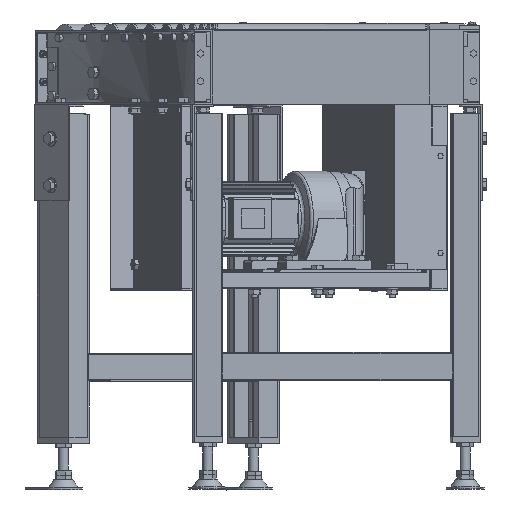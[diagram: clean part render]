
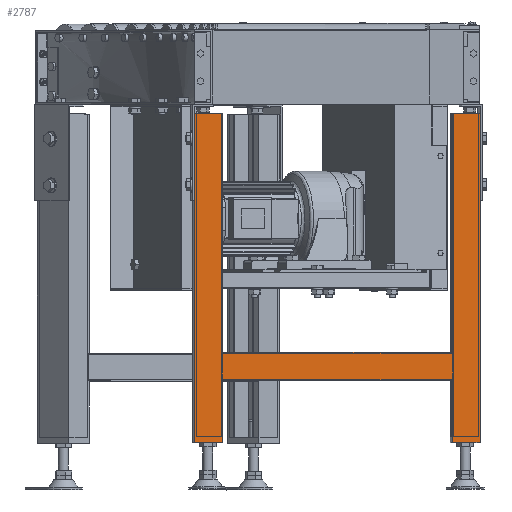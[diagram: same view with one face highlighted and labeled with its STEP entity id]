
A CAD part, top view. The second image highlights one B-rep face of the part: STEP entity #2787.
In plain terms, the highlighted planar face has unit normal (0.045, 0, 0.999).
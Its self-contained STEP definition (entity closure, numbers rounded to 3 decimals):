
#2787=ADVANCED_FACE('',(#23539),#23538,.T.);
#23538=PLANE('',#42070);
#23539=FACE_OUTER_BOUND('',#42071,.T.);
#42067=CARTESIAN_POINT('',(860.816,-685.,-1.398));
#42068=DIRECTION('',(0.045,0.,0.999));
#42069=DIRECTION('',(0.999,0.,-0.045));
#42070=AXIS2_PLACEMENT_3D('',#42067,#42068,#42069);
#42071=EDGE_LOOP('',(#55925,#55926,#55927,#55928,#55929,#55930,#55931,#55932,#55933,#55934,#55935,#55936,#55937,#55938));
#55925=ORIENTED_EDGE('',*,*,#64545,.F.);
#55926=ORIENTED_EDGE('',*,*,#64521,.T.);
#55927=ORIENTED_EDGE('',*,*,#64546,.T.);
#55928=ORIENTED_EDGE('',*,*,#64547,.F.);
#55929=ORIENTED_EDGE('',*,*,#64548,.T.);
#55930=ORIENTED_EDGE('',*,*,#64549,.T.);
#55931=ORIENTED_EDGE('',*,*,#64550,.T.);
#55932=ORIENTED_EDGE('',*,*,#64551,.F.);
#55933=ORIENTED_EDGE('',*,*,#64489,.F.);
#55934=ORIENTED_EDGE('',*,*,#64552,.F.);
#55935=ORIENTED_EDGE('',*,*,#64553,.T.);
#55936=ORIENTED_EDGE('',*,*,#64504,.T.);
#55937=ORIENTED_EDGE('',*,*,#64554,.F.);
#55938=ORIENTED_EDGE('',*,*,#64516,.F.);
#64489=EDGE_CURVE('',#100242,#100250,#100251,.T.);
#64504=EDGE_CURVE('',#100353,#100346,#100354,.T.);
#64516=EDGE_CURVE('',#100430,#100416,#100437,.T.);
#64521=EDGE_CURVE('',#100471,#100464,#100472,.T.);
#64545=EDGE_CURVE('',#100471,#100430,#100630,.T.);
#64546=EDGE_CURVE('',#100464,#100636,#100637,.T.);
#64547=EDGE_CURVE('',#100643,#100636,#100644,.T.);
#64548=EDGE_CURVE('',#100643,#100650,#100651,.T.);
#64549=EDGE_CURVE('',#100650,#100657,#100658,.T.);
#64550=EDGE_CURVE('',#100657,#100664,#100665,.T.);
#64551=EDGE_CURVE('',#100250,#100664,#100671,.T.);
#64552=EDGE_CURVE('',#100677,#100242,#100678,.T.);
#64553=EDGE_CURVE('',#100677,#100353,#100684,.T.);
#64554=EDGE_CURVE('',#100416,#100346,#100690,.T.);
#100242=VERTEX_POINT('',#138284);
#100250=VERTEX_POINT('',#138289);
#100251=LINE('',#138290,#138291);
#100346=VERTEX_POINT('',#138343);
#100353=VERTEX_POINT('',#138347);
#100354=LINE('',#138348,#138349);
#100416=VERTEX_POINT('',#138383);
#100430=VERTEX_POINT('',#138391);
#100437=LINE('',#138395,#138396);
#100464=VERTEX_POINT('',#138410);
#100471=VERTEX_POINT('',#138414);
#100472=LINE('',#138415,#138416);
#100630=LINE('',#138501,#138502);
#100636=VERTEX_POINT('',#138504);
#100637=LINE('',#138505,#138506);
#100643=VERTEX_POINT('',#138508);
#100644=LINE('',#138509,#138510);
#100650=VERTEX_POINT('',#138512);
#100651=LINE('',#138513,#138514);
#100657=VERTEX_POINT('',#138516);
#100658=LINE('',#138517,#138518);
#100664=VERTEX_POINT('',#138520);
#100665=LINE('',#138521,#138522);
#100671=LINE('',#138524,#138525);
#100677=VERTEX_POINT('',#138527);
#100678=LINE('',#138528,#138529);
#100684=LINE('',#138531,#138532);
#100690=LINE('',#138534,#138535);
#138284=CARTESIAN_POINT('',(1285.382,-530.,-20.602));
#138289=CARTESIAN_POINT('',(1285.382,-145.,-20.602));
#138290=CARTESIAN_POINT('',(1285.382,-530.,-20.602));
#138291=VECTOR('',#138292,385.);
#138292=DIRECTION('',(0.,1.,0.));
#138343=CARTESIAN_POINT('',(870.806,-145.,-1.85));
#138347=CARTESIAN_POINT('',(915.76,-145.,-3.883));
#138348=CARTESIAN_POINT('',(915.76,-145.,-3.883));
#138349=VECTOR('',#138350,45.);
#138350=DIRECTION('',(-0.999,0.,0.045));
#138383=CARTESIAN_POINT('',(870.806,-285.,-1.85));
#138391=CARTESIAN_POINT('',(870.806,-675.,-1.85));
#138395=CARTESIAN_POINT('',(870.806,-675.,-1.85));
#138396=VECTOR('',#138397,390.);
#138397=DIRECTION('',(0.,1.,0.));
#138410=CARTESIAN_POINT('',(915.76,-575.,-3.883));
#138414=CARTESIAN_POINT('',(915.76,-675.,-3.883));
#138415=CARTESIAN_POINT('',(915.76,-675.,-3.883));
#138416=VECTOR('',#138417,100.);
#138417=DIRECTION('',(0.,1.,0.));
#138501=CARTESIAN_POINT('',(915.76,-675.,-3.883));
#138502=VECTOR('',#138503,45.);
#138503=DIRECTION('',(-0.999,0.,0.045));
#138504=CARTESIAN_POINT('',(1285.382,-575.,-20.602));
#138505=CARTESIAN_POINT('',(915.76,-575.,-3.883));
#138506=VECTOR('',#138507,370.);
#138507=DIRECTION('',(0.999,0.,-0.045));
#138508=CARTESIAN_POINT('',(1285.382,-675.,-20.602));
#138509=CARTESIAN_POINT('',(1285.382,-675.,-20.602));
#138510=VECTOR('',#138511,100.);
#138511=DIRECTION('',(0.,1.,0.));
#138512=CARTESIAN_POINT('',(1330.336,-675.,-22.635));
#138513=CARTESIAN_POINT('',(1285.382,-675.,-20.602));
#138514=VECTOR('',#138515,45.);
#138515=DIRECTION('',(0.999,0.,-0.045));
#138516=CARTESIAN_POINT('',(1330.336,-285.,-22.635));
#138517=CARTESIAN_POINT('',(1330.336,-675.,-22.635));
#138518=VECTOR('',#138519,390.);
#138519=DIRECTION('',(0.,1.,0.));
#138520=CARTESIAN_POINT('',(1330.336,-145.,-22.635));
#138521=CARTESIAN_POINT('',(1330.336,-285.,-22.635));
#138522=VECTOR('',#138523,140.);
#138523=DIRECTION('',(0.,1.,0.));
#138524=CARTESIAN_POINT('',(1285.382,-145.,-20.602));
#138525=VECTOR('',#138526,45.);
#138526=DIRECTION('',(0.999,0.,-0.045));
#138527=CARTESIAN_POINT('',(915.76,-530.,-3.883));
#138528=CARTESIAN_POINT('',(915.76,-530.,-3.883));
#138529=VECTOR('',#138530,370.);
#138530=DIRECTION('',(0.999,0.,-0.045));
#138531=CARTESIAN_POINT('',(915.76,-530.,-3.883));
#138532=VECTOR('',#138533,385.);
#138533=DIRECTION('',(0.,1.,0.));
#138534=CARTESIAN_POINT('',(870.806,-285.,-1.85));
#138535=VECTOR('',#138536,140.);
#138536=DIRECTION('',(0.,1.,0.));
